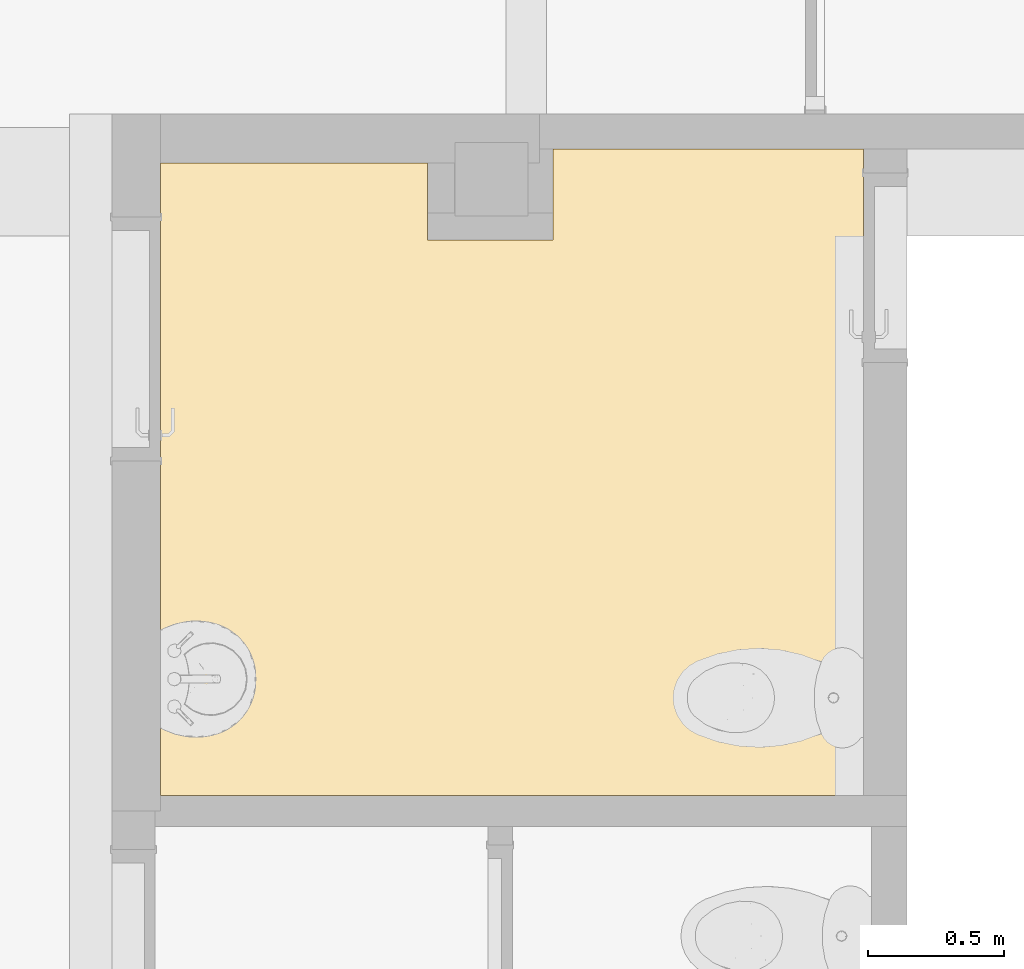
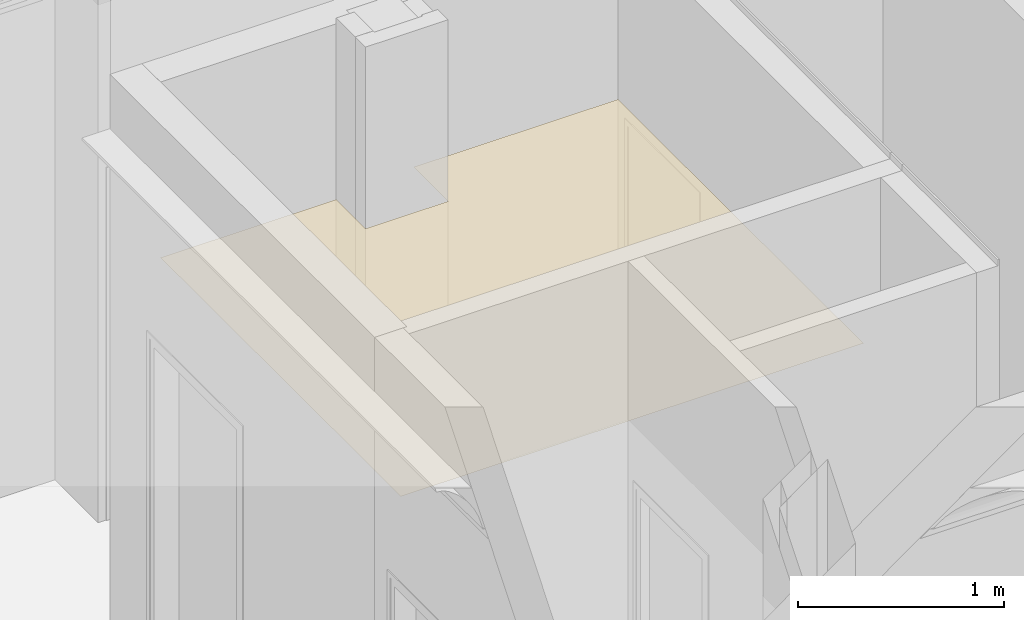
# One storey, part 55 of 65: 1 covering.
"""IFC4 building model written with IfcOpenShell, lengths in metres."""

from ifc_helpers import new_model, entity, si_unit, converted_unit, derived_unit, direction, frame, origin, place, context, subcontext, project, spatial, polygons, material, layer, layer_set, type_object, element, save


model = new_model("IFC4")

# Units and contexts
model_context = context("Model", 3, precision=1e-05, world=origin(), true_north=direction((6.12303176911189e-17, 1.0)))
body_context = subcontext(model_context, "Body", "Model", "MODEL_VIEW")
ifc_project = project(units=[si_unit("LENGTHUNIT", "METRE"), si_unit("AREAUNIT", "SQUARE_METRE"), si_unit("VOLUMEUNIT", "CUBIC_METRE"), converted_unit("PLANEANGLEUNIT", "DEGREE", entity("IfcRatioMeasure", 0.0174532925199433), si_unit("PLANEANGLEUNIT", "RADIAN"), dimensions=[0, 0, 0, 0, 0, 0, 0]), si_unit("MASSUNIT", "GRAM", prefix="KILO"), derived_unit("MASSDENSITYUNIT", [(si_unit("MASSUNIT", "GRAM", prefix="KILO"), 1), (si_unit("LENGTHUNIT", "METRE"), -3)]), derived_unit("MOMENTOFINERTIAUNIT", [(si_unit("LENGTHUNIT", "METRE"), 4)]), si_unit("TIMEUNIT", "SECOND"), si_unit("FREQUENCYUNIT", "HERTZ"), si_unit("THERMODYNAMICTEMPERATUREUNIT", "DEGREE_CELSIUS"), derived_unit("THERMALTRANSMITTANCEUNIT", [(si_unit("MASSUNIT", "GRAM", prefix="KILO"), 1), (si_unit("THERMODYNAMICTEMPERATUREUNIT", "KELVIN"), -1), (si_unit("TIMEUNIT", "SECOND"), -3)]), derived_unit("VOLUMETRICFLOWRATEUNIT", [(si_unit("LENGTHUNIT", "METRE"), 3), (si_unit("TIMEUNIT", "SECOND"), -1)]), si_unit("ELECTRICCURRENTUNIT", "AMPERE"), si_unit("ELECTRICVOLTAGEUNIT", "VOLT"), si_unit("POWERUNIT", "WATT"), si_unit("FORCEUNIT", "NEWTON", prefix="KILO"), si_unit("ILLUMINANCEUNIT", "LUX"), si_unit("LUMINOUSFLUXUNIT", "LUMEN"), si_unit("LUMINOUSINTENSITYUNIT", "CANDELA"), derived_unit("USERDEFINED", [(si_unit("MASSUNIT", "GRAM", prefix="KILO"), -1), (si_unit("LENGTHUNIT", "METRE"), -2), (si_unit("TIMEUNIT", "SECOND"), 3), (si_unit("LUMINOUSFLUXUNIT", "LUMEN"), 1)]), derived_unit("LINEARVELOCITYUNIT", [(si_unit("LENGTHUNIT", "METRE"), 1), (si_unit("TIMEUNIT", "SECOND"), -1)]), si_unit("PRESSUREUNIT", "PASCAL"), derived_unit("USERDEFINED", [(si_unit("LENGTHUNIT", "METRE"), -2), (si_unit("MASSUNIT", "GRAM", prefix="KILO"), 1), (si_unit("TIMEUNIT", "SECOND"), -2)]), derived_unit("LINEARFORCEUNIT", [(si_unit("MASSUNIT", "GRAM", prefix="KILO"), 1), (si_unit("LENGTHUNIT", "METRE"), 1), (si_unit("TIMEUNIT", "SECOND"), -2), (si_unit("LENGTHUNIT", "METRE"), -1)]), derived_unit("PLANARFORCEUNIT", [(si_unit("MASSUNIT", "GRAM", prefix="KILO"), 1), (si_unit("LENGTHUNIT", "METRE"), 1), (si_unit("TIMEUNIT", "SECOND"), -2), (si_unit("LENGTHUNIT", "METRE"), -2)])], contexts=[model_context])

# Site, building, storey
site_placement = place(None, origin())
site = spatial("IfcSite", under=ifc_project, at=site_placement, Name="Default", CompositionType="ELEMENT")
building_placement = place(site_placement, origin())
building = spatial("IfcBuilding", under=site, at=building_placement, Name="HOTEL CONSULAIRE BOULOGNE SUR MER", CompositionType="ELEMENT")
storey_placement = place(building_placement, origin())
storey = spatial("IfcBuildingStorey", under=building, at=storey_placement, Name="Niveau 0", CompositionType="ELEMENT", Elevation=1.31981936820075e-13)

# Covering
ifc_material = material(Name="Faux-plafond - Trame 600 x 600", Category="Divers")
ifc_layer = layer(ifc_material, 0.0, Name="Faux-plafond - Trame 600 x 600", Category="Divers")
ifc_layer_set = layer_set([ifc_layer], Name="Plafond de base:Plafond 600 mm x 1200 mm")
covering_type = type_object("IfcCoveringType", Name="Plafond de base:Plafond 600 mm x 1200 mm", PredefinedType="CEILING")
covering_placement = place(storey_placement, frame((-2.44945658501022, -17.8875602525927, 2.346)))
element("IfcCovering", 1, at=covering_placement, inside=storey, type_object=covering_type, material=ifc_layer_set, Name="Plafond de base:Plafond 600 mm x 1200 mm", ObjectType="Plafond de base:Plafond 600 mm x 1200 mm", PredefinedType="CEILING", context=body_context, shape_type="Tessellation", body=[
    polygons([(0.0, 8.66293703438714e-15, 1.27852954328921e-16), (2.59172477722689, 0.0, 1.27852954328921e-16), (2.59172477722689, 2.38231820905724, 1.27852954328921e-16), (1.44685039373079, 2.38231820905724, 1.27852954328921e-16), (1.44685039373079, 2.04757744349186, 1.27852954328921e-16), (0.984248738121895, 2.04757744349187, 1.27852954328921e-16), (0.984248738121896, 2.33231820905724, 1.27852954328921e-16), (3.79003495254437e-15, 2.33231820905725, 1.27852954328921e-16)], [[[1, 2, 3, 4, 5, 6, 7, 8]]], closed=True),
])

save(model, "model.ifc")
